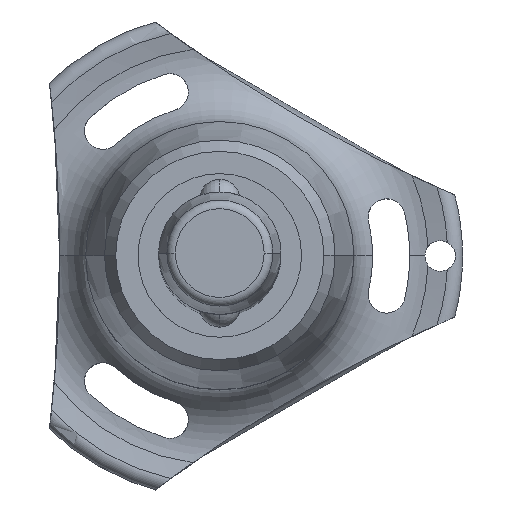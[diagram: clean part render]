
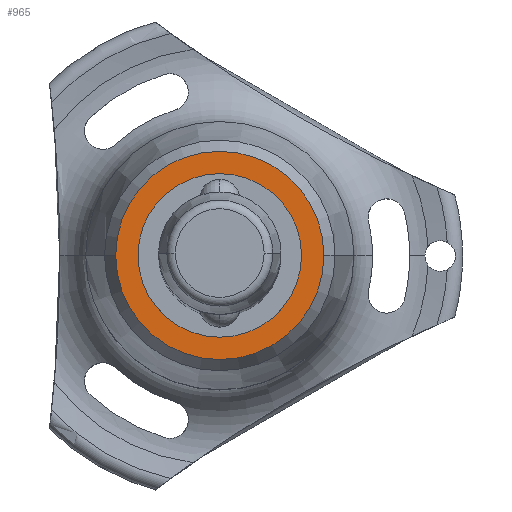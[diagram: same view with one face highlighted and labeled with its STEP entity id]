
A CAD part, top view. The second image highlights one B-rep face of the part: STEP entity #965.
In plain terms, the highlighted planar face has unit normal (0, 0, 1).
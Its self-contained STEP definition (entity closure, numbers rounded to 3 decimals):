
#59 = VERTEX_POINT ( 'NONE', #2437 ) ;
#76 = AXIS2_PLACEMENT_3D ( 'NONE', #263, #2488, #2476 ) ;
#114 = CARTESIAN_POINT ( 'NONE',  ( 0., 0., -120.85 ) ) ;
#116 = DIRECTION ( 'NONE',  ( 0., 0., -1. ) ) ;
#182 = DIRECTION ( 'NONE',  ( -1., 0., 0. ) ) ;
#263 = CARTESIAN_POINT ( 'NONE',  ( 0., 8.017, -120.85 ) ) ;
#299 = VERTEX_POINT ( 'NONE', #2366 ) ;
#521 = EDGE_CURVE ( 'NONE', #299, #2679, #1333, .T. ) ;
#582 = EDGE_LOOP ( 'NONE', ( #1428, #1863 ) ) ;
#635 = AXIS2_PLACEMENT_3D ( 'NONE', #2112, #116, #1937 ) ;
#754 = DIRECTION ( 'NONE',  ( -1., 0., 0. ) ) ;
#897 = VERTEX_POINT ( 'NONE', #2018 ) ;
#920 = AXIS2_PLACEMENT_3D ( 'NONE', #2817, #1285, #1299 ) ;
#965 = ADVANCED_FACE ( 'NONE', ( #1608, #2054 ), #2621, .T. ) ;
#1151 = CIRCLE ( 'NONE', #920, 10.206 ) ;
#1163 = EDGE_CURVE ( 'NONE', #2679, #299, #2578, .T. ) ;
#1285 = DIRECTION ( 'NONE',  ( 0., 0., -1. ) ) ;
#1294 = CARTESIAN_POINT ( 'NONE',  ( 0., 0., -120.85 ) ) ;
#1299 = DIRECTION ( 'NONE',  ( -1., 0., 0. ) ) ;
#1333 = CIRCLE ( 'NONE', #635, 8.017 ) ;
#1342 = ORIENTED_EDGE ( 'NONE', *, *, #1163, .T. ) ;
#1394 = EDGE_CURVE ( 'NONE', #59, #897, #1151, .T. ) ;
#1405 = ORIENTED_EDGE ( 'NONE', *, *, #521, .T. ) ;
#1428 = ORIENTED_EDGE ( 'NONE', *, *, #2245, .F. ) ;
#1437 = DIRECTION ( 'NONE',  ( 0., 0., -1. ) ) ;
#1608 = FACE_BOUND ( 'NONE', #2599, .T. ) ;
#1764 = AXIS2_PLACEMENT_3D ( 'NONE', #1294, #2180, #182 ) ;
#1863 = ORIENTED_EDGE ( 'NONE', *, *, #1394, .F. ) ;
#1937 = DIRECTION ( 'NONE',  ( -1., 0., 0. ) ) ;
#2018 = CARTESIAN_POINT ( 'NONE',  ( -10.206, 0., -120.85 ) ) ;
#2054 = FACE_OUTER_BOUND ( 'NONE', #582, .T. ) ;
#2081 = CIRCLE ( 'NONE', #1764, 10.206 ) ;
#2112 = CARTESIAN_POINT ( 'NONE',  ( 0., 0., -120.85 ) ) ;
#2180 = DIRECTION ( 'NONE',  ( 0., 0., -1. ) ) ;
#2245 = EDGE_CURVE ( 'NONE', #897, #59, #2081, .T. ) ;
#2356 = AXIS2_PLACEMENT_3D ( 'NONE', #114, #1437, #754 ) ;
#2366 = CARTESIAN_POINT ( 'NONE',  ( -8.017, 0., -120.85 ) ) ;
#2437 = CARTESIAN_POINT ( 'NONE',  ( 10.206, 0., -120.85 ) ) ;
#2476 = DIRECTION ( 'NONE',  ( 1., 0., 0. ) ) ;
#2488 = DIRECTION ( 'NONE',  ( 0., 0., 1. ) ) ;
#2578 = CIRCLE ( 'NONE', #2356, 8.017 ) ;
#2599 = EDGE_LOOP ( 'NONE', ( #1405, #1342 ) ) ;
#2621 = PLANE ( 'NONE',  #76 ) ;
#2679 = VERTEX_POINT ( 'NONE', #2712 ) ;
#2712 = CARTESIAN_POINT ( 'NONE',  ( 8.017, 0., -120.85 ) ) ;
#2817 = CARTESIAN_POINT ( 'NONE',  ( 0., 0., -120.85 ) ) ;
